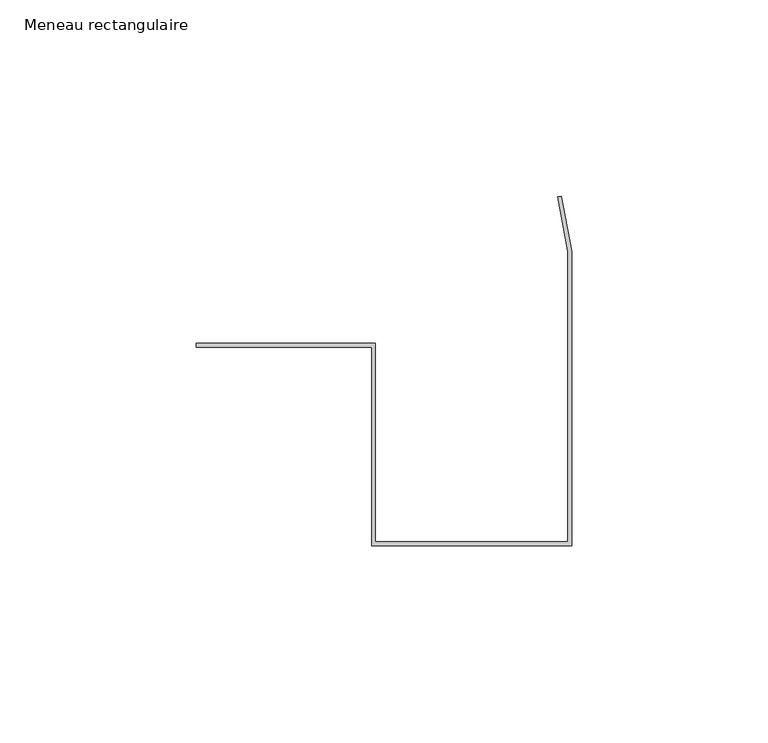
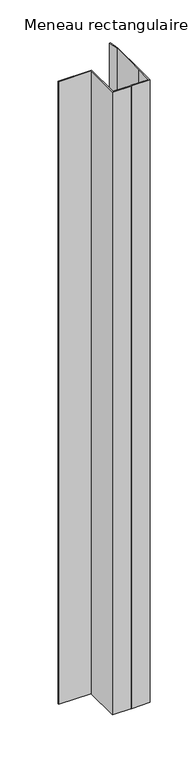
"""IFC4 building model written with IfcOpenShell, lengths in millimetres: member geometry, Meneau rectangulaire : Jonction contre mur Gauche H."""

from ifc_helpers import new_model, si_unit, frame, origin, place, context, project, spatial, polyline, outline, extrude, source, transform, mapped, element, save


def meneau_rectangulaire_743d7d59(model_context):
    return source(origin(), model_context, "Body", "SweptSolid", [
        extrude(outline(polyline([(-1.0, 26.3950161), (-3.6043568, 40.2612876), (-2.6384309, 40.4427073), (0.0, 26.3950161), (0.0, -23.6049839), (0.0, -48.6049839), (-25.0, -48.6049839), (-26.0, -48.6049839), (-51.0, -48.6049839), (-51.0, 2.0), (-95.6686418, 2.0), (-95.6686418, 3.0), (-50.0, 3.0), (-50.0, -47.6049839), (-26.0, -47.6049839), (-25.0, -47.6049839), (-1.0, -47.6049839), (-1.0, -23.6049839), (-1.0, 26.3950161)])), frame((0.0, 0.0, -898.1451617), z_axis=(0.0, 0.0, 1.0), x_axis=(1.0, 0.0, 0.0)), (0.0, 0.0, 1.0), 898.1451617),
    ])


if __name__ == "__main__":
    model = new_model("IFC4")
    model_context = context("Model", 3, world=origin())
    ifc_project = project(units=[si_unit("LENGTHUNIT", "METRE", prefix="MILLI")], contexts=[model_context])
    site = spatial("IfcSite", under=ifc_project)
    building = spatial("IfcBuilding", under=site)
    placement = place(None, origin())
    meneau_rectangulaire_shape = meneau_rectangulaire_743d7d59(model_context)
    element("IfcMember", 1, ObjectType="Meneau rectangulaire : Jonction contre mur Gauche H", at=placement, inside=building, context=model_context, shape_type="MappedRepresentation", body=[
        mapped(meneau_rectangulaire_shape, transform((0.0, 0.0, 0.0), x_axis=(1.0, 0.0, 0.0), y_axis=(0.0, 1.0, 0.0), z_axis=(0.0, 0.0, 1.0))),
    ])
    save(model, "model.ifc")
